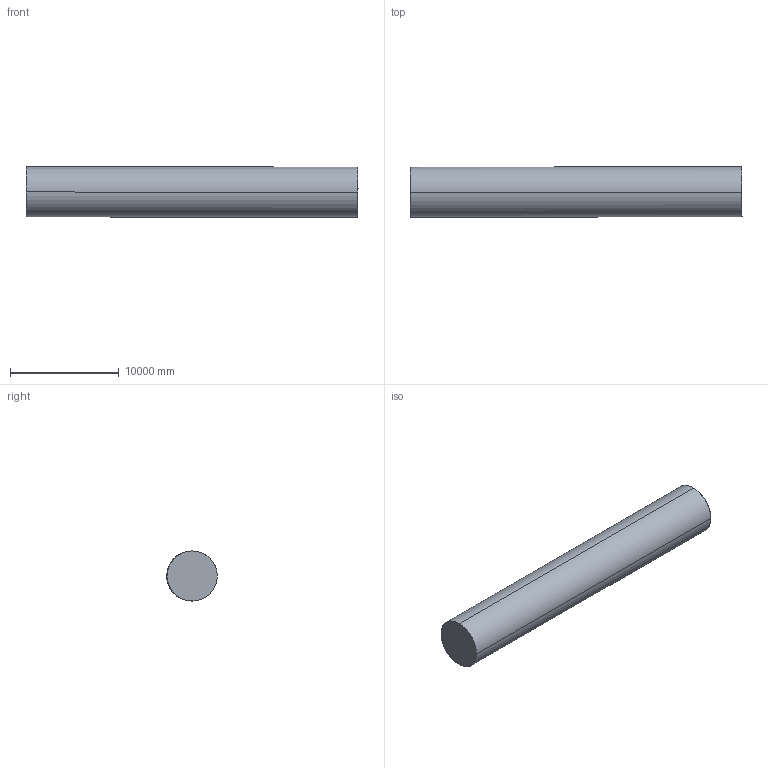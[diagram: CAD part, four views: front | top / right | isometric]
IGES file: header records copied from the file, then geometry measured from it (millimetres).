
Global section: file name: Z:\prj2.1\wind_tunnels\NTF\outgoing\NTF_Rumsey_October_2023\NTF_Diffusor_Constant_Cross_Section_Extension_2023_10_02.igs; native system: NX V12.0; preprocessor: SIEMENS PLM Software NX 12.0; date: 20231003.102030; units: inch
Bounding box: 30485.55 x 4632.4 x 4600.86 mm (x, y, z)
Surface area: 473276692.4 mm2 (no closed solid volume)
Topology: 0 solids, 0 shells, 6 faces, 95 edges, 95 vertices
Faces by surface type: bspline 6
